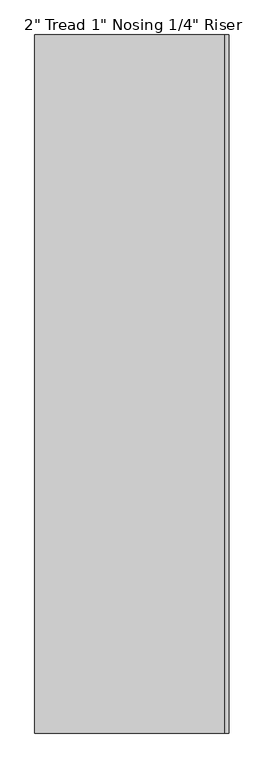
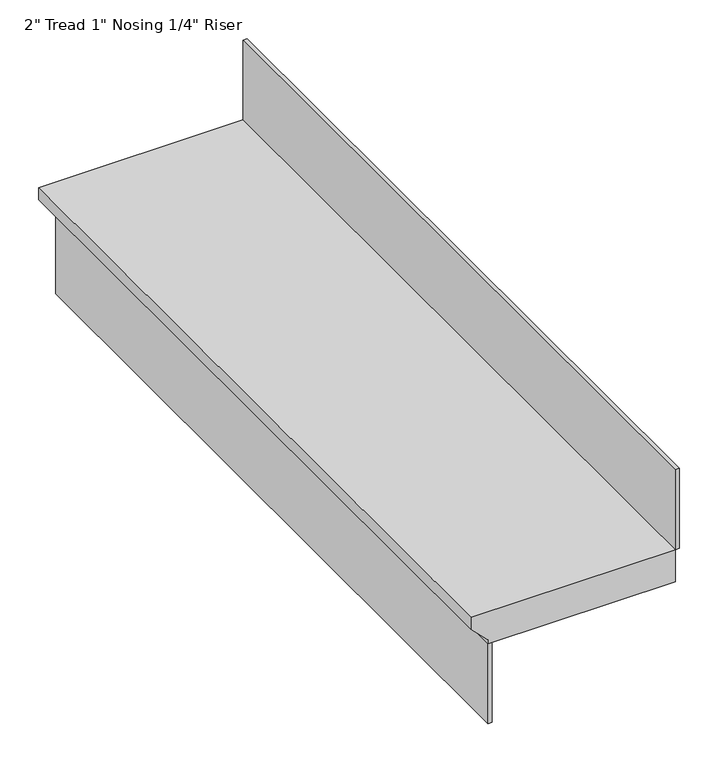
"""IFC4 building model written with IfcOpenShell, lengths in millimetres: stair flight geometry."""

import ifcopenshell
import ifcopenshell.guid

model = None  # the IFC model being written
_history = None  # IfcOwnerHistory: only IFC2X3 demands one
_inside = {}  # id of a spatial element -> (the spatial element, [elements in it])
_under = {}  # id of a project, library or spatial element -> (it, [spatial elements below it])
_declared = {}  # id of a project -> (the project, [libraries it declares])
_typed = {}  # id of a type object -> (the type object, [elements of that type])
_made_of = {}  # id of a material, layer set ... -> (it, [elements and type objects made of it])


def new_model(schema):
    """Start an empty IFC model of exactly this schema.

    Asked for "IFC4X3", IfcOpenShell would pick the latest addendum, in which some entities
    have other attributes; the version numbers below select the first issue.
    IFC2X3 requires an IfcOwnerHistory on every rooted entity: one is made here for all.
    """
    global model, _history
    if schema == "IFC4X3":
        model = ifcopenshell.file(schema_version=(4, 3, 0, 0))
    else:
        model = ifcopenshell.file(schema=schema)
    _inside.clear()
    _under.clear()
    _declared.clear()
    _typed.clear()
    _made_of.clear()
    _history = None
    if model.schema == "IFC2X3":
        org = make("IfcOrganization", Name="unknown")
        user = make(
            "IfcPersonAndOrganization",
            ThePerson=make("IfcPerson", FamilyName="unknown"),
            TheOrganization=org,
        )
        app = make(
            "IfcApplication",
            ApplicationDeveloper=org,
            Version="unknown",
            ApplicationFullName="unknown",
            ApplicationIdentifier="unknown",
        )
        _history = make(
            "IfcOwnerHistory",
            OwningUser=user,
            OwningApplication=app,
            ChangeAction="ADDED",
            CreationDate=0,
        )
    return model


def make(cls, **values):
    """One entity of the class cls with the attributes given. An attribute that is None is left unset."""
    return model.create_entity(
        cls, **{name: value for name, value in values.items() if value is not None}
    )


def rooted(cls, **values):
    """An entity with a GlobalId (a new one), such as an element, a storey or a relation."""
    return make(cls, GlobalId=ifcopenshell.guid.new(), OwnerHistory=_history, **values)


def si_unit(unit_type, name, prefix=None):
    """IfcSIUnit, for example si_unit("LENGTHUNIT", "METRE", prefix="MILLI")."""
    return make("IfcSIUnit", UnitType=unit_type, Prefix=prefix, Name=name)


def assignment(units):
    """IfcUnitAssignment: the units of a project."""
    return None if units is None else make("IfcUnitAssignment", Units=units)


def point(xyz):
    """IfcCartesianPoint."""
    return None if xyz is None else make("IfcCartesianPoint", Coordinates=xyz)


def direction(xyz):
    """IfcDirection."""
    return None if xyz is None else make("IfcDirection", DirectionRatios=xyz)


def frame(location, z_axis=None, x_axis=None):
    """IfcAxis2Placement3D, a coordinate frame: its origin and axes. An axis left out is left unset."""
    return make(
        "IfcAxis2Placement3D",
        Location=point(location),
        Axis=direction(z_axis),
        RefDirection=direction(x_axis),
    )


def origin():
    """The frame at (0, 0, 0) with its axes left unset."""
    return frame((0.0, 0.0, 0.0))


def place(relative_to, where):
    """IfcLocalPlacement: puts the frame where relative to a parent placement (None: the world)."""
    return make(
        "IfcLocalPlacement", PlacementRelTo=relative_to, RelativePlacement=where
    )


def context(
    kind, dimensions, precision=None, world=None, true_north=None, identifier=None
):
    """IfcGeometricRepresentationContext, for example the 3D "Model" context."""
    return make(
        "IfcGeometricRepresentationContext",
        ContextIdentifier=identifier,
        ContextType=kind,
        CoordinateSpaceDimension=dimensions,
        Precision=precision,
        WorldCoordinateSystem=world,
        TrueNorth=true_north,
    )


def project(units=None, contexts=None):
    """IfcProject with its units and contexts."""
    return rooted(
        "IfcProject",
        Name="project",
        RepresentationContexts=contexts,
        UnitsInContext=assignment(units),
    )


def spatial(cls, under=None, at=None, **own):
    """A site, building, storey or space (cls), placed at a placement, below another one or the project."""
    s = rooted(cls, ObjectPlacement=at, **own)
    if under is not None:
        _under.setdefault(under.id(), (under, []))[1].append(s)
    return s


def polyline(points):
    """IfcPolyline through the points."""
    return make("IfcPolyline", Points=[point(p) for p in points])


def outline(outer, holes=None, kind="AREA"):
    """IfcArbitraryClosedProfileDef: a profile drawn as a closed curve; with holes, ...WithVoids."""
    if holes is None:
        return make("IfcArbitraryClosedProfileDef", ProfileType=kind, OuterCurve=outer)
    return make(
        "IfcArbitraryProfileDefWithVoids",
        ProfileType=kind,
        OuterCurve=outer,
        InnerCurves=holes,
    )


def extrude(swept, where, along, depth):
    """IfcExtrudedAreaSolid: the profile swept, set in the frame where, extruded along a direction by depth."""
    return make(
        "IfcExtrudedAreaSolid",
        SweptArea=swept,
        Position=where,
        ExtrudedDirection=direction(along),
        Depth=depth,
    )


def shape(context_of_items, identifier, shape_type, items):
    """IfcShapeRepresentation: the items that make up one representation, for example the "Body"."""
    return make(
        "IfcShapeRepresentation",
        ContextOfItems=context_of_items,
        RepresentationIdentifier=identifier,
        RepresentationType=shape_type,
        Items=items,
    )


def source(mapping_origin, context_of_items, identifier, shape_type, items):
    """IfcRepresentationMap: a shape defined once, which mapped items show again and again."""
    return make(
        "IfcRepresentationMap",
        MappingOrigin=mapping_origin,
        MappedRepresentation=shape(context_of_items, identifier, shape_type, items),
    )


def transform(
    local_origin,
    x_axis=None,
    y_axis=None,
    z_axis=None,
    scale=None,
    scale2=None,
    scale3=None,
    uniform=True,
):
    """IfcCartesianTransformationOperator3D, or its non-uniform kind. x_axis, y_axis, z_axis: its Axis1, 2, 3."""
    if uniform:
        return make(
            "IfcCartesianTransformationOperator3D",
            Axis1=direction(x_axis),
            Axis2=direction(y_axis),
            LocalOrigin=point(local_origin),
            Scale=scale,
            Axis3=direction(z_axis),
        )
    return make(
        "IfcCartesianTransformationOperator3DnonUniform",
        Axis1=direction(x_axis),
        Axis2=direction(y_axis),
        LocalOrigin=point(local_origin),
        Scale=scale,
        Axis3=direction(z_axis),
        Scale2=scale2,
        Scale3=scale3,
    )


def mapped(mapping_source, mapping_target):
    """IfcMappedItem: shows the shape of a source again, moved by a transform."""
    return make(
        "IfcMappedItem", MappingSource=mapping_source, MappingTarget=mapping_target
    )


def made_of(thing, what):
    """Note that an element or type object is made of a material, layer set ...; save() writes the relation."""
    if what is not None:
        _made_of.setdefault(what.id(), (what, []))[1].append(thing)
    return thing


def element(
    cls,
    number,
    at=None,
    inside=None,
    cuts=None,
    type_object=None,
    material=None,
    context=None,
    identifier="Body",
    shape_type=None,
    held_by="IfcProductDefinitionShape",
    body=None,
    shapes=None,
    **own,
):
    """One element of the class cls, such as IfcWall. Its Tag is "e" and its number.

    at: its placement. inside: the storey or other place that contains it. cuts: it is an
    opening in that element (IfcRelVoidsElement). A single representation is given by context,
    identifier, shape_type and body (its items); several are given by shapes. held_by: the class
    of the entity that holds the representations. save() writes the other relations.
    """
    e = rooted(cls, Tag="e%d" % number, ObjectPlacement=at, **own)
    if body is not None:
        shapes = [shape(context, identifier, shape_type, body)]
    if shapes is not None:
        e.Representation = make(held_by, Representations=shapes)
    if inside is not None:
        _inside.setdefault(inside.id(), (inside, []))[1].append(e)
    if cuts is not None:
        rooted(
            "IfcRelVoidsElement", RelatingBuildingElement=cuts, RelatedOpeningElement=e
        )
    if type_object is not None:
        _typed.setdefault(type_object.id(), (type_object, []))[1].append(e)
    return made_of(e, material)


def aggregate(whole, parts):
    """IfcRelAggregates: a whole, such as a stair, and the parts it consists of."""
    return rooted("IfcRelAggregates", RelatingObject=whole, RelatedObjects=parts)


def save(model, path):
    """Write the relations noted so far, then the file.

    IfcRelAggregates (storeys below a building ...), IfcRelContainedInSpatialStructure (elements
    in a storey), IfcRelDefinesByType, IfcRelAssociatesMaterial and IfcRelDeclares: one each for
    every whole, place, type object, material and project.
    """
    for whole, parts in _under.values():
        aggregate(whole, parts)
    for where, things in _inside.values():
        rooted(
            "IfcRelContainedInSpatialStructure",
            RelatedElements=things,
            RelatingStructure=where,
        )
    for kind, things in _typed.values():
        rooted("IfcRelDefinesByType", RelatedObjects=things, RelatingType=kind)
    for what, things in _made_of.values():
        rooted("IfcRelAssociatesMaterial", RelatedObjects=things, RelatingMaterial=what)
    for by, libraries in _declared.values():
        rooted("IfcRelDeclares", RelatingContext=by, RelatedDefinitions=libraries)
    model.write(path)


def stair_flight_ce2f7eb1(model_context):
    return source(origin(), model_context, "Body", "SweptSolid", [
        extrude(outline(polyline([(4039.7043478, 12560.3000296), (4039.7043478, 12255.5000296), (4020.6543478, 12255.5000296), (3995.2543478, 12280.9000296), (3988.9043478, 12280.9000296), (3988.9043478, 12560.3000296), (4039.7043478, 12560.3000296)])), frame((0.0, 28352.7528736, 0.0), z_axis=(0.0, 1.0, 0.0), x_axis=(0.0, 0.0, 1.0)), (0.0, 0.0, 1.0), 1117.6),
        extrude(outline(polyline([(12287.2500296, 28352.7528736), (12280.9000296, 28352.7528736), (12280.9000296, 29470.3528736), (12287.2500296, 29470.3528736), (12287.2500296, 28352.7528736)])), frame((0.0, 0.0, 3863.0086957), z_axis=(0.0, 0.0, 1.0), x_axis=(1.0, 0.0, 0.0)), (0.0, 0.0, 1.0), 125.8956522),
        extrude(outline(polyline([(12566.6500296, 28352.7528736), (12560.3000296, 28352.7528736), (12560.3000296, 29470.3528736), (12566.6500296, 29470.3528736), (12566.6500296, 28352.7528736)])), frame((0.0, 0.0, 4039.7043478), z_axis=(0.0, 0.0, 1.0), x_axis=(1.0, 0.0, 0.0)), (0.0, 0.0, 1.0), 125.8956522),
    ])


if __name__ == "__main__":
    model = new_model("IFC4")
    model_context = context("Model", 3, world=origin())
    ifc_project = project(units=[si_unit("LENGTHUNIT", "METRE", prefix="MILLI")], contexts=[model_context])
    site = spatial("IfcSite", under=ifc_project)
    building = spatial("IfcBuilding", under=site)
    placement = place(None, origin())
    stair_flight_shape = stair_flight_ce2f7eb1(model_context)
    element("IfcStairFlight", 1, ObjectType="2\" Tread 1\" Nosing 1/4\" Riser", at=placement, inside=building, context=model_context, shape_type="MappedRepresentation", body=[
        mapped(stair_flight_shape, transform((0.0, 0.0, 0.0), x_axis=(1.0, 0.0, 0.0), y_axis=(0.0, 1.0, 0.0), z_axis=(0.0, 0.0, 1.0))),
    ])
    save(model, "model.ifc")
